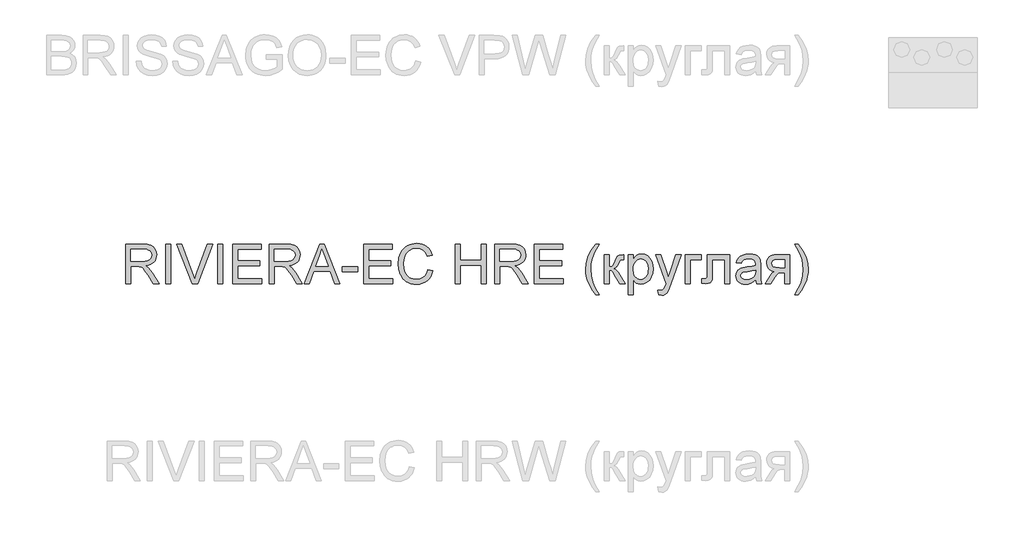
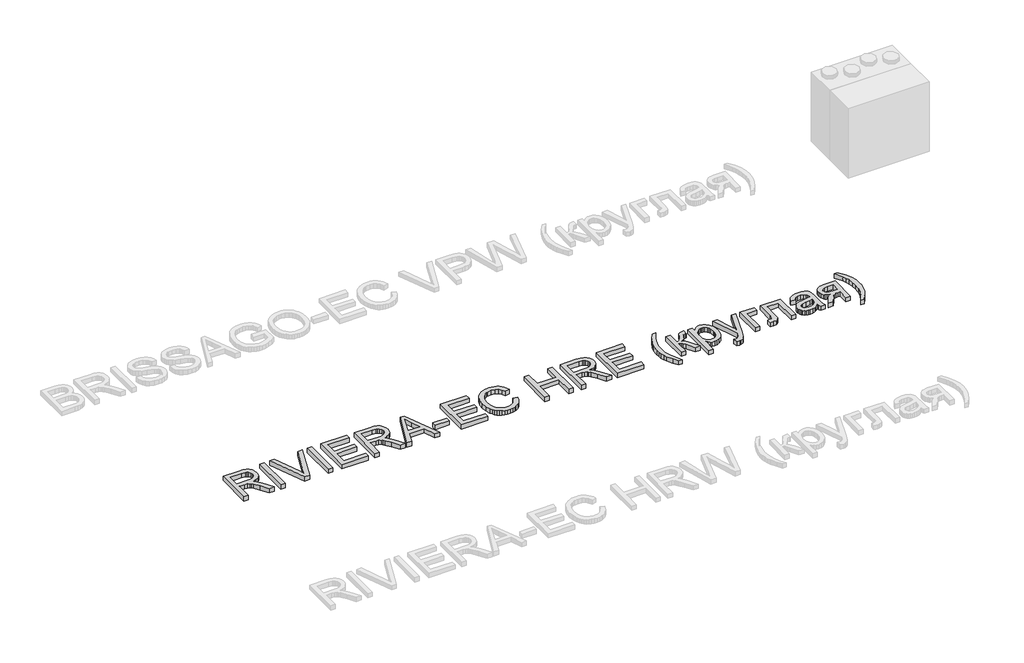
# One storey, part 4 of 28: 1 proxy.
"""IFC4 building model written with IfcOpenShell, lengths in millimetres."""

from ifc_helpers import new_model, si_unit, origin, origin_with_axes, place, context, project, spatial, polyline, outline, extrude, element, save

model = new_model("IFC4")

# Units and contexts
model_context = context("Model", 3, world=origin())
ifc_project = project(units=[si_unit("LENGTHUNIT", "METRE", prefix="MILLI")], contexts=[model_context])

# Site, building, storey
site = spatial("IfcSite", under=ifc_project)
building = spatial("IfcBuilding", under=site)
storey = spatial("IfcBuildingStorey", under=building, Name="Уровень 1", Elevation=0.0)

# Proxy
placement = place(None, origin())
element("IfcBuildingElementProxy", 1, Name="400 мм Arial", ObjectType="400 мм Arial", at=placement, inside=storey, context=model_context, shape_type="SweptSolid", body=[
    extrude(outline(polyline([(-28878.9219913, -14468.7253035), (-28878.9219913, -14066.9000629), (-28705.7721989, -14066.9000629), (-28659.2351265, -14069.6101269), (-28625.3777202, -14077.740319), (-28600.6315247, -14092.7499044), (-28581.4280846, -14116.0981484), (-28569.1040377, -14145.0504614), (-28564.9960221, -14176.872254), (-28566.6974763, -14197.5104339), (-28571.801839, -14216.4563566), (-28580.3091102, -14233.7100222), (-28592.2192897, -14249.2714306), (-28607.685662, -14262.6439411), (-28626.861511, -14273.3309131), (-28649.7468367, -14281.3323465), (-28676.3416393, -14286.6482413), (-28647.7939965, -14308.1325498), (-28607.0817224, -14359.8322329), (-28540.0781483, -14468.7253035), (-28598.4487582, -14468.7253035), (-28650.7370524, -14385.4368198), (-28688.5062706, -14330.3035714), (-28702.5471001, -14314.2271282), (-28715.0428252, -14304.2575262), (-28738.9306294, -14294.6925943), (-28768.0668834, -14292.9267607), (-28828.6938362, -14292.9267607), (-28828.6938362, -14468.7253035), (-28878.9219913, -14468.7253035)]), holes=[polyline([(-28828.6938362, -14242.6986056), (-28716.2690985, -14242.6986056), (-28683.9813221, -14240.9205093), (-28658.9285582, -14235.5862204), (-28640.0684746, -14226.3401196), (-28626.3587389, -14212.8265876), (-28618.0078176, -14196.4803643), (-28615.2241772, -14178.7361894), (-28620.5339406, -14154.2352485), (-28636.463231, -14134.4922481), (-28648.6247967, -14126.8954849), (-28663.8704397, -14121.4692255), (-28703.6139579, -14117.1282179), (-28828.6938362, -14117.1282179), (-28828.6938362, -14242.6986056)])]), origin_with_axes(), (0.0, 0.0, 1.0), 50.0),
    extrude(outline(polyline([(-28470.8182313, -14468.7253035), (-28470.8182313, -14066.9000629), (-28420.5900763, -14066.9000629), (-28420.5900763, -14468.7253035), (-28470.8182313, -14468.7253035)])), origin_with_axes(), (0.0, 0.0, 1.0), 50.0),
    extrude(outline(polyline([(-28201.430509, -14468.7253035), (-28361.3365496, -14066.9000629), (-28307.5767273, -14066.9000629), (-28200.5475922, -14356.3986676), (-28178.86708, -14421.6364081), (-28157.4808733, -14356.3986676), (-28050.1574326, -14066.9000629), (-27996.3976104, -14066.9000629), (-28149.5346222, -14468.7253035), (-28201.430509, -14468.7253035)])), origin_with_axes(), (0.0, 0.0, 1.0), 50.0),
    extrude(outline(polyline([(-27943.4226031, -14468.7253035), (-27943.4226031, -14066.9000629), (-27893.194448, -14066.9000629), (-27893.194448, -14468.7253035), (-27943.4226031, -14468.7253035)])), origin_with_axes(), (0.0, 0.0, 1.0), 50.0),
    extrude(outline(polyline([(-27792.7381378, -14468.7253035), (-27792.7381378, -14066.9000629), (-27503.9262461, -14066.9000629), (-27503.9262461, -14117.1282179), (-27742.5099828, -14117.1282179), (-27742.5099828, -14236.4200862), (-27516.4832849, -14236.4200862), (-27516.4832849, -14286.6482413), (-27742.5099828, -14286.6482413), (-27742.5099828, -14418.4971484), (-27497.6477268, -14418.4971484), (-27497.6477268, -14468.7253035), (-27792.7381378, -14468.7253035)])), origin_with_axes(), (0.0, 0.0, 1.0), 50.0),
    extrude(outline(polyline([(-27422.3054942, -14468.7253035), (-27422.3054942, -14066.9000629), (-27249.1557018, -14066.9000629), (-27202.6186294, -14069.6101269), (-27168.7612231, -14077.740319), (-27144.0150275, -14092.7499044), (-27124.8115874, -14116.0981484), (-27112.4875405, -14145.0504614), (-27108.3795249, -14176.872254), (-27110.0809792, -14197.5104339), (-27115.1853418, -14216.4563566), (-27123.692613, -14233.7100222), (-27135.6027926, -14249.2714306), (-27151.0691648, -14262.6439411), (-27170.2450138, -14273.3309131), (-27193.1303396, -14281.3323465), (-27219.7251421, -14286.6482413), (-27191.1774993, -14308.1325498), (-27150.4652252, -14359.8322329), (-27083.4616511, -14468.7253035), (-27141.832261, -14468.7253035), (-27194.1205553, -14385.4368198), (-27231.8897734, -14330.3035714), (-27245.9306029, -14314.2271282), (-27258.426328, -14304.2575262), (-27282.3141323, -14294.6925943), (-27311.4503863, -14292.9267607), (-27372.0773391, -14292.9267607), (-27372.0773391, -14468.7253035), (-27422.3054942, -14468.7253035)]), holes=[polyline([(-27372.0773391, -14242.6986056), (-27259.6526014, -14242.6986056), (-27227.3648249, -14240.9205093), (-27202.312061, -14235.5862204), (-27183.4519774, -14226.3401196), (-27169.7422417, -14212.8265876), (-27161.3913204, -14196.4803643), (-27158.60768, -14178.7361894), (-27163.9174435, -14154.2352485), (-27179.8467339, -14134.4922481), (-27192.0082995, -14126.8954849), (-27207.2539425, -14121.4692255), (-27246.9974607, -14117.1282179), (-27372.0773391, -14117.1282179), (-27372.0773391, -14242.6986056)])]), origin_with_axes(), (0.0, 0.0, 1.0), 50.0),
    extrude(outline(polyline([(-27067.2748433, -14468.7253035), (-26906.8782934, -14066.9000629), (-26864.1058801, -14066.9000629), (-26703.7093302, -14468.7253035), (-26756.7824394, -14468.7253035), (-26802.7922143, -14343.1549158), (-26968.2900612, -14343.1549158), (-27014.2017342, -14468.7253035), (-27067.2748433, -14468.7253035)]), holes=[polyline([(-26949.8469105, -14292.9267607), (-26821.1372631, -14292.9267607), (-26857.3368514, -14194.1381823), (-26885.4920868, -14117.1282179), (-26910.5080625, -14185.5052181), (-26949.8469105, -14292.9267607)])]), origin_with_axes(), (0.0, 0.0, 1.0), 50.0),
    extrude(outline(polyline([(-26681.4402068, -14349.4334352), (-26681.4402068, -14299.2052801), (-26524.4772222, -14299.2052801), (-26524.4772222, -14349.4334352), (-26681.4402068, -14349.4334352)])), origin_with_axes(), (0.0, 0.0, 1.0), 50.0),
    extrude(outline(polyline([(-26461.6920283, -14468.7253035), (-26461.6920283, -14066.9000629), (-26172.8801367, -14066.9000629), (-26172.8801367, -14117.1282179), (-26411.4638733, -14117.1282179), (-26411.4638733, -14236.4200862), (-26185.4371754, -14236.4200862), (-26185.4371754, -14286.6482413), (-26411.4638733, -14286.6482413), (-26411.4638733, -14418.4971484), (-26166.6016173, -14418.4971484), (-26166.6016173, -14468.7253035), (-26461.6920283, -14468.7253035)])), origin_with_axes(), (0.0, 0.0, 1.0), 50.0),
    extrude(outline(polyline([(-25808.7260124, -14325.8889875), (-25758.4978573, -14338.8384337), (-25768.4368025, -14370.0746808), (-25781.674423, -14397.3684591), (-25798.2107187, -14420.7197688), (-25818.0456896, -14440.1286097), (-25840.731746, -14455.3865155), (-25865.821298, -14466.2850196), (-25893.3143458, -14472.824122), (-25923.2108893, -14475.0038229), (-25953.8401311, -14473.3544852), (-25981.4711346, -14468.4064724), (-26006.1038998, -14460.1597843), (-26027.7384268, -14448.6144211), (-26046.6720869, -14433.9420608), (-26063.2022512, -14416.3143819), (-26077.3289198, -14395.7313843), (-26089.0520927, -14372.1930679), (-26104.8342303, -14320.3217066), (-26110.0949428, -14264.7715253), (-26104.1475172, -14206.1801862), (-26096.7132352, -14179.882755), (-26086.3052405, -14155.5841492), (-26073.1565248, -14133.6859734), (-26057.5000802, -14114.5898322), (-26039.3359067, -14098.2957255), (-26018.6640043, -14084.8036533), (-25996.1864144, -14074.2239803), (-25972.6051785, -14066.6670709), (-25922.1317688, -14060.6215435), (-25893.4032506, -14062.5774494), (-25867.0598341, -14068.4451672), (-25843.1015191, -14078.224697), (-25821.5283058, -14091.9160385), (-25802.6958133, -14109.1574414), (-25786.959661, -14129.5871548), (-25774.3198488, -14153.2051789), (-25764.7763767, -14180.0115137), (-25815.0045318, -14191.9799412), (-25832.4176129, -14155.3511572), (-25856.2073152, -14130.224817), (-25886.6679444, -14115.6934782), (-25924.0938061, -14110.8496986), (-25967.2341014, -14116.2207757), (-25985.9163754, -14122.9346221), (-26002.6734002, -14132.3340071), (-26029.5655741, -14157.4971355), (-26047.0644943, -14190.0179039), (-26056.6662144, -14226.781578), (-26059.8667877, -14264.6734235), (-26056.0776032, -14311.0756058), (-26044.7100495, -14351.1992687), (-26025.3349311, -14383.5115707), (-25997.5230523, -14406.4796699), (-25964.1806808, -14420.2016683), (-25928.2140844, -14424.7756678), (-25906.3772223, -14423.2183007), (-25886.2877997, -14418.5461993), (-25867.9458165, -14410.7593638), (-25851.3512729, -14399.857794), (-25836.8965762, -14385.8905409), (-25824.9741338, -14368.9066554), (-25815.5839459, -14348.9061376), (-25808.7260124, -14325.8889875)])), origin_with_axes(), (0.0, 0.0, 1.0), 50.0),
    extrude(outline(polyline([(-25532.4711595, -14468.7253035), (-25532.4711595, -14066.9000629), (-25482.2430044, -14066.9000629), (-25482.2430044, -14230.1415669), (-25268.7733453, -14230.1415669), (-25268.7733453, -14066.9000629), (-25218.5451902, -14066.9000629), (-25218.5451902, -14468.7253035), (-25268.7733453, -14468.7253035), (-25268.7733453, -14280.3697219), (-25482.2430044, -14280.3697219), (-25482.2430044, -14468.7253035), (-25532.4711595, -14468.7253035)])), origin_with_axes(), (0.0, 0.0, 1.0), 50.0),
    extrude(outline(polyline([(-25130.6459189, -14468.7253035), (-25130.6459189, -14066.9000629), (-24957.4961265, -14066.9000629), (-24910.9590541, -14069.6101269), (-24877.1016478, -14077.740319), (-24852.3554522, -14092.7499044), (-24833.1520121, -14116.0981484), (-24820.8279653, -14145.0504614), (-24816.7199496, -14176.872254), (-24818.4214039, -14197.5104339), (-24823.5257666, -14216.4563566), (-24832.0330377, -14233.7100222), (-24843.9432173, -14249.2714306), (-24859.4095895, -14262.6439411), (-24878.5854385, -14273.3309131), (-24901.4707643, -14281.3323465), (-24928.0655669, -14286.6482413), (-24899.517924, -14308.1325498), (-24858.8056499, -14359.8322329), (-24791.8020758, -14468.7253035), (-24850.1726857, -14468.7253035), (-24902.46098, -14385.4368198), (-24940.2301982, -14330.3035714), (-24954.2710276, -14314.2271282), (-24966.7667527, -14304.2575262), (-24990.654557, -14294.6925943), (-25019.790811, -14292.9267607), (-25080.4177638, -14292.9267607), (-25080.4177638, -14468.7253035), (-25130.6459189, -14468.7253035)]), holes=[polyline([(-25080.4177638, -14242.6986056), (-24967.9930261, -14242.6986056), (-24935.7052496, -14240.9205093), (-24910.6524857, -14235.5862204), (-24891.7924021, -14226.3401196), (-24878.0826664, -14212.8265876), (-24869.7317452, -14196.4803643), (-24866.9481047, -14178.7361894), (-24872.2578682, -14154.2352485), (-24888.1871586, -14134.4922481), (-24900.3487242, -14126.8954849), (-24915.5943672, -14121.4692255), (-24955.3378854, -14117.1282179), (-25080.4177638, -14117.1282179), (-25080.4177638, -14242.6986056)])]), origin_with_axes(), (0.0, 0.0, 1.0), 50.0),
    extrude(outline(polyline([(-24728.8206783, -14468.7253035), (-24728.8206783, -14066.9000629), (-24440.0087866, -14066.9000629), (-24440.0087866, -14117.1282179), (-24678.5925232, -14117.1282179), (-24678.5925232, -14236.4200862), (-24452.5658254, -14236.4200862), (-24452.5658254, -14286.6482413), (-24678.5925232, -14286.6482413), (-24678.5925232, -14418.4971484), (-24433.7302672, -14418.4971484), (-24433.7302672, -14468.7253035), (-24728.8206783, -14468.7253035)])), origin_with_axes(), (0.0, 0.0, 1.0), 50.0),
    extrude(outline(polyline([(-24107.2472592, -14581.7386524), (-24146.1691743, -14527.1204388), (-24178.5673153, -14463.9183121), (-24191.3144265, -14429.864702), (-24200.4195059, -14395.1979554), (-24205.8825535, -14359.918072), (-24207.7035694, -14324.025052), (-24202.2589158, -14261.6077402), (-24185.9249552, -14201.8882296), (-24153.5022887, -14134.2469935), (-24107.2472592, -14066.9000629), (-24069.5761429, -14066.9000629), (-24116.5669364, -14146.4606757), (-24132.6065914, -14184.2298939), (-24144.8202737, -14223.5687419), (-24154.3116291, -14273.8214224), (-24157.4754143, -14324.3193576), (-24151.9817098, -14388.7109695), (-24135.5005964, -14453.0780559), (-24108.0320741, -14517.4206169), (-24069.5761429, -14581.7386524), (-24107.2472592, -14581.7386524)])), origin_with_axes(), (0.0, 0.0, 1.0), 50.0),
    extrude(outline(polyline([(-24019.3479878, -14173.6348924), (-23969.1198328, -14173.6348924), (-23969.1198328, -14299.2052801), (-23948.6901193, -14296.9489372), (-23935.4708929, -14290.1799085), (-23923.7722455, -14272.5215727), (-23907.9042688, -14237.5973086), (-23884.9974832, -14192.2251959), (-23875.5551787, -14183.0649342), (-23864.7884989, -14177.4608652), (-23828.0493503, -14173.6348924), (-23818.4353675, -14173.6348924), (-23818.4353675, -14224.1573531), (-23831.973425, -14223.8630475), (-23847.6697234, -14225.1874227), (-23856.4988913, -14229.1605482), (-23873.7648196, -14262.2208768), (-23884.3720838, -14284.2570084), (-23894.0228548, -14297.9790068), (-23905.7092395, -14307.1392685), (-23922.4233448, -14315.4901897), (-23906.5063172, -14322.5596554), (-23890.7364423, -14335.0369864), (-23875.1137203, -14352.9221828), (-23859.638151, -14376.2152444), (-23805.8783288, -14468.7253035), (-23862.9736144, -14468.7253035), (-23915.6543161, -14378.1772817), (-23929.8790866, -14354.081011), (-23942.1418198, -14339.8685033), (-23954.5271803, -14332.9155336), (-23969.1198328, -14330.597877), (-23969.1198328, -14468.7253035), (-24019.3479878, -14468.7253035), (-24019.3479878, -14173.6348924)])), origin_with_axes(), (0.0, 0.0, 1.0), 50.0),
    extrude(outline(polyline([(-23774.4857318, -14581.7386524), (-23774.4857318, -14173.6348924), (-23724.2575768, -14173.6348924), (-23724.2575768, -14222.8820288), (-23707.8745653, -14198.5895544), (-23689.5295164, -14181.237787), (-23668.1433098, -14170.8267265), (-23642.6368248, -14167.356373), (-23608.6690539, -14172.2124154), (-23578.9687141, -14186.7805424), (-23554.7866043, -14210.1778373), (-23537.3735232, -14241.5213832), (-23526.8520982, -14278.530312), (-23523.3449565, -14318.923755), (-23527.3058193, -14361.8801093), (-23539.1884077, -14400.2992524), (-23558.6125771, -14432.2314095), (-23585.1981826, -14455.7268063), (-23616.1615839, -14470.1845687), (-23648.7191404, -14475.0038229), (-23671.809867, -14471.778724), (-23692.4235215, -14462.1034276), (-23710.0695945, -14447.4985123), (-23724.2575768, -14429.4845573), (-23724.2575768, -14581.7386524), (-23774.4857318, -14581.7386524)]), holes=[polyline([(-23724.2575768, -14323.5345427), (-23718.825186, -14368.5632989), (-23712.0346975, -14386.0009055), (-23702.5280136, -14400.0539977), (-23678.4807938, -14418.5952503), (-23664.7189415, -14423.2305634), (-23649.7982609, -14424.7756678), (-23634.6629825, -14423.1753811), (-23620.6497442, -14418.3745211), (-23607.7585459, -14410.3730877), (-23595.9893878, -14399.1710809), (-23586.1822669, -14384.6090853), (-23579.1771806, -14366.5276852), (-23574.9741288, -14344.9268807), (-23573.5731115, -14319.8066718), (-23579.0422905, -14275.0231703), (-23585.8787643, -14257.4506736), (-23595.4498275, -14243.0910131), (-23619.4602591, -14223.9611493), (-23633.0657615, -14219.1786834), (-23647.7381218, -14217.5845281), (-23662.3644968, -14219.279851), (-23676.1263491, -14224.3658195), (-23701.0564856, -14244.7096939), (-23711.206963, -14259.8081841), (-23718.457304, -14277.978489), (-23722.8075086, -14299.2206085), (-23724.2575768, -14323.5345427)])]), origin_with_axes(), (0.0, 0.0, 1.0), 50.0),
    extrude(outline(polyline([(-23466.838282, -14581.7386524), (-23473.1168014, -14533.3744328), (-23447.6103164, -14537.7890167), (-23434.1948863, -14536.4033278), (-23423.7715631, -14532.2462613), (-23409.1543852, -14516.7952175), (-23395.420124, -14479.8108143), (-23391.4960494, -14467.6461829), (-23498.2308789, -14173.6348924), (-23445.2558716, -14173.6348924), (-23388.6510953, -14337.4650076), (-23368.9326204, -14402.9970537), (-23349.2141454, -14345.1169531), (-23291.0397392, -14173.6348924), (-23238.4571394, -14173.6348924), (-23341.1697925, -14475.7886378), (-23367.8534998, -14541.3206838), (-23381.5141846, -14562.2409066), (-23396.9897539, -14576.7354573), (-23414.9669207, -14585.1967431), (-23436.1323981, -14588.0171718), (-23466.838282, -14581.7386524)])), origin_with_axes(), (0.0, 0.0, 1.0), 50.0),
    extrude(outline(polyline([(-23196.8619485, -14173.6348924), (-23033.6204445, -14173.6348924), (-23033.6204445, -14223.8630475), (-23146.6337934, -14223.8630475), (-23146.6337934, -14468.7253035), (-23196.8619485, -14468.7253035), (-23196.8619485, -14173.6348924)])), origin_with_axes(), (0.0, 0.0, 1.0), 50.0),
    extrude(outline(polyline([(-22970.8352506, -14173.6348924), (-22744.8085528, -14173.6348924), (-22744.8085528, -14468.4309979), (-22795.0367079, -14468.4309979), (-22795.0367079, -14223.8630475), (-22920.6070956, -14223.8630475), (-22920.6070956, -14364.6392243), (-22923.9916099, -14429.5826592), (-22930.331443, -14444.2856763), (-22942.5819134, -14457.0021306), (-22961.1722169, -14465.7945102), (-22986.5315491, -14468.7253035), (-23027.3419251, -14466.174655), (-23027.3419251, -14418.4971484), (-23004.8765979, -14418.4971484), (-22982.1660161, -14415.4069396), (-22973.0915936, -14405.5967531), (-22970.8352506, -14361.7942702), (-22970.8352506, -14173.6348924)])), origin_with_axes(), (0.0, 0.0, 1.0), 50.0),
    extrude(outline(polyline([(-22481.1107387, -14431.0541872), (-22505.1089075, -14451.6310534), (-22529.8183148, -14465.0955344), (-22555.8030464, -14472.5267508), (-22583.627188, -14475.0038229), (-22605.9913476, -14473.5139008), (-22625.6025236, -14469.0441345), (-22642.4607161, -14461.5945241), (-22656.5659249, -14451.1650696), (-22667.7035523, -14438.4179584), (-22675.6590005, -14424.0153783), (-22680.4322693, -14407.9573292), (-22682.023359, -14390.2438112), (-22679.6198633, -14369.4216902), (-22672.4093762, -14350.5125557), (-22661.2870772, -14334.3257479), (-22647.1481458, -14321.6706073), (-22630.5321424, -14312.1056754), (-22611.9786271, -14305.1894939), (-22568.5195007, -14297.6356502), (-22517.1631742, -14289.6893991), (-22481.4050443, -14280.3697219), (-22481.1107387, -14269.1861093), (-22484.5688294, -14246.769833), (-22494.9431017, -14232.1036042), (-22518.1441928, -14221.2142971), (-22550.4687575, -14217.5845281), (-22580.3898264, -14220.0002865), (-22601.2855238, -14227.2475618), (-22615.5348197, -14240.6507292), (-22625.5166845, -14261.5341638), (-22675.7448396, -14255.2556444), (-22667.0260363, -14227.7871221), (-22654.0152764, -14206.2047117), (-22635.4985493, -14189.6990729), (-22610.2618444, -14177.4608652), (-22579.396545, -14169.8824961), (-22543.9940344, -14167.356373), (-22510.0385262, -14169.5881905), (-22483.1218269, -14176.2836428), (-22462.8270035, -14186.3513467), (-22448.7371231, -14198.699919), (-22439.3929204, -14213.9670218), (-22433.3351302, -14232.7903172), (-22430.8825836, -14276.7399529), (-22430.8825836, -14339.2308412), (-22428.3319351, -14426.4924504), (-22418.3255448, -14468.7253035), (-22468.5536999, -14468.7253035), (-22476.5980529, -14451.2631714), (-22481.1107387, -14431.0541872)]), holes=[polyline([(-22481.1107387, -14330.597877), (-22514.8577804, -14338.961061), (-22562.1428795, -14345.9998699), (-22605.3567512, -14354.1423247), (-22616.6016775, -14359.7096056), (-22624.9280733, -14367.3860765), (-22630.0784212, -14376.5831264), (-22631.7952039, -14386.712144), (-22628.0550703, -14401.648153), (-22616.8346694, -14413.8863607), (-22598.379256, -14422.053341), (-22572.9340847, -14424.7756678), (-22545.9560717, -14421.7712981), (-22522.1173184, -14412.7581893), (-22502.7912509, -14399.4776492), (-22489.3512954, -14383.6709862), (-22483.391607, -14367.3860765), (-22481.4050443, -14344.8226475), (-22481.1107387, -14330.597877)])]), origin_with_axes(), (0.0, 0.0, 1.0), 50.0),
    extrude(outline(polyline([(-22135.7921725, -14173.6348924), (-22135.7921725, -14468.7253035), (-22186.0203276, -14468.7253035), (-22186.0203276, -14355.7119545), (-22213.390748, -14355.7119545), (-22235.2184131, -14357.3061099), (-22250.6694569, -14362.0885758), (-22265.556415, -14375.9945152), (-22285.6918228, -14404.959091), (-22325.7173839, -14468.7253035), (-22383.7936882, -14468.7253035), (-22333.3693294, -14388.0855701), (-22311.100206, -14359.1455198), (-22290.5969161, -14346.2941755), (-22324.932569, -14335.7727504), (-22338.2744227, -14326.9619766), (-22349.0656279, -14315.7844953), (-22363.3394493, -14289.1988898), (-22368.0973897, -14258.8854134), (-22366.4725776, -14240.797882), (-22361.5981412, -14224.5007096), (-22353.4740804, -14209.9938963), (-22342.1003954, -14197.277442), (-22327.6487644, -14186.9338265), (-22310.2908656, -14179.5455298), (-22290.026699, -14175.1125517), (-22266.8562647, -14173.6348924), (-22135.7921725, -14173.6348924)]), holes=[polyline([(-22186.0203276, -14223.8630475), (-22252.2390867, -14223.8630475), (-22286.4398496, -14226.7693152), (-22305.8517562, -14235.4881185), (-22314.864865, -14248.106471), (-22317.8692347, -14262.7113862), (-22313.442388, -14281.8535127), (-22300.161848, -14295.1340527), (-22275.6241189, -14302.8963628), (-22237.4257051, -14305.4837995), (-22186.0203276, -14305.4837995), (-22186.0203276, -14223.8630475)])]), origin_with_axes(), (0.0, 0.0, 1.0), 50.0),
    extrude(outline(polyline([(-22047.8929011, -14581.7386524), (-22085.5640175, -14581.7386524), (-22047.1080862, -14517.4206169), (-22019.6395639, -14453.0780559), (-22003.1584505, -14388.7109695), (-21997.6647461, -14324.3193576), (-22000.8285312, -14274.1893044), (-22010.3198867, -14224.4516587), (-22022.3128397, -14185.0392343), (-22038.2789183, -14147.2454906), (-22085.5640175, -14066.9000629), (-22047.8929011, -14066.9000629), (-22001.6378716, -14134.2469935), (-21969.2152051, -14201.8882296), (-21952.8812445, -14261.6077402), (-21947.436591, -14324.025052), (-21949.2668039, -14359.918072), (-21954.7574427, -14395.1979554), (-21963.9085073, -14429.864702), (-21976.7199978, -14463.9183121), (-22009.1549271, -14527.1204388), (-22047.8929011, -14581.7386524)])), origin_with_axes(), (0.0, 0.0, 1.0), 50.0),
])

save(model, "model.ifc")
